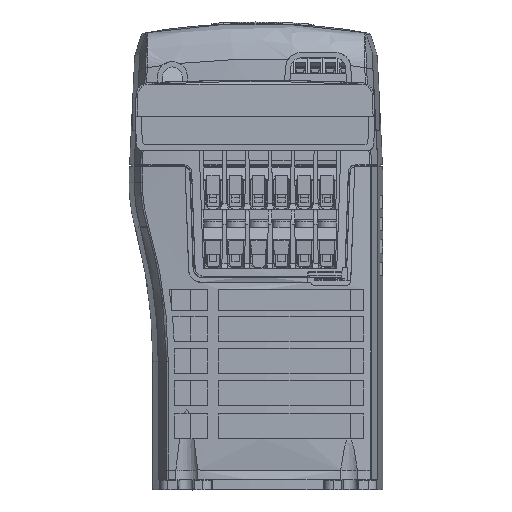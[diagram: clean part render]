
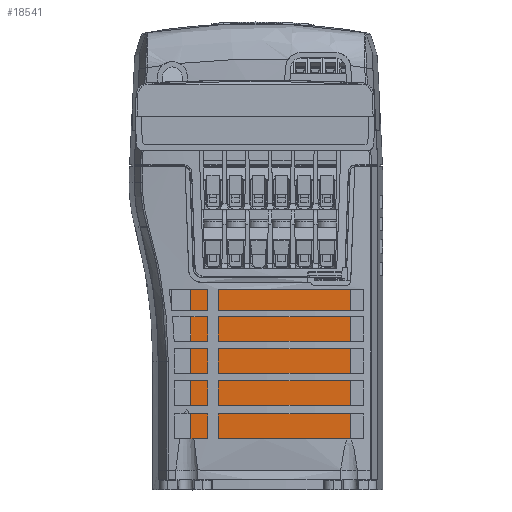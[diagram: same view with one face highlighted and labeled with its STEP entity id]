
A CAD part, front view. The second image highlights one B-rep face of the part: STEP entity #18541.
In plain terms, the highlighted planar face has unit normal (0, -1, -0.009).
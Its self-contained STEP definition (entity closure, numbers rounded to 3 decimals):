
#11248=DIRECTION('',(1.,0.,0.));
#11249=VECTOR('',#11248,1.7);
#11250=CARTESIAN_POINT('',(22.93,-113.056,17.2));
#11251=LINE('',#11250,#11249);
#11285=DIRECTION('',(-1.,0.,0.));
#11286=VECTOR('',#11285,3.87);
#11287=CARTESIAN_POINT('',(28.5,-112.935,3.4));
#11288=LINE('',#11287,#11286);
#11289=DIRECTION('',(0.,-0.009,1.));
#11290=VECTOR('',#11289,13.801);
#11291=CARTESIAN_POINT('',(24.63,-112.935,3.4));
#11292=LINE('',#11291,#11290);
#11293=DIRECTION('',(0.,0.009,-1.));
#11294=VECTOR('',#11293,13.801);
#11295=CARTESIAN_POINT('',(22.93,-113.056,17.2));
#11296=LINE('',#11295,#11294);
#11297=DIRECTION('',(-1.,0.,0.));
#11298=VECTOR('',#11297,47.72);
#11299=CARTESIAN_POINT('',(22.93,-112.935,3.4));
#11300=LINE('',#11299,#11298);
#11301=DIRECTION('',(-0.003,-0.009,1.));
#11302=VECTOR('',#11301,66.843);
#11303=CARTESIAN_POINT('',(-24.79,-112.935,3.4));
#11304=LINE('',#11303,#11302);
#11305=DIRECTION('',(1.,0.,0.));
#11306=VECTOR('',#11305,53.523);
#11307=CARTESIAN_POINT('',(-25.023,-113.52,
70.24));
#11308=LINE('',#11307,#11306);
#11309=DIRECTION('',(0.,0.009,-1.));
#11310=VECTOR('',#11309,66.842);
#11311=CARTESIAN_POINT('',(28.5,-113.52,70.24));
#11312=LINE('',#11311,#11310);
#15208=CARTESIAN_POINT('',(22.93,-112.935,3.4));
#15209=VERTEX_POINT('',#15208);
#15210=CARTESIAN_POINT('',(28.5,-112.935,3.4));
#15212=VERTEX_POINT('',#15210);
#15214=CARTESIAN_POINT('',(24.63,-112.935,3.4));
#15215=VERTEX_POINT('',#15214);
#15217=CARTESIAN_POINT('',(-25.023,-113.52,
70.24));
#15219=VERTEX_POINT('',#15217);
#15222=CARTESIAN_POINT('',(24.63,-113.056,17.2));
#15223=VERTEX_POINT('',#15222);
#15224=CARTESIAN_POINT('',(22.93,-113.056,17.2));
#15225=VERTEX_POINT('',#15224);
#15226=CARTESIAN_POINT('',(28.5,-113.52,70.24));
#15227=VERTEX_POINT('',#15226);
#15922=CARTESIAN_POINT('',(-24.79,-112.935,3.4));
#15923=VERTEX_POINT('',#15922);
#18519=CARTESIAN_POINT('',(1.738,-113.227,
36.82));
#18520=DIRECTION('',(0.,1.,0.009));
#18521=DIRECTION('',(0.,-0.009,1.));
#18522=AXIS2_PLACEMENT_3D('',#18519,#18520,#18521);
#18523=PLANE('',#18522);
#18525=ORIENTED_EDGE('',*,*,#18524,.T.);
#18527=ORIENTED_EDGE('',*,*,#18526,.T.);
#18528=ORIENTED_EDGE('',*,*,#18500,.F.);
#18530=ORIENTED_EDGE('',*,*,#18529,.T.);
#18532=ORIENTED_EDGE('',*,*,#18531,.T.);
#18534=ORIENTED_EDGE('',*,*,#18533,.T.);
#18536=ORIENTED_EDGE('',*,*,#18535,.T.);
#18538=ORIENTED_EDGE('',*,*,#18537,.T.);
#18539=EDGE_LOOP('',(#18525,#18527,#18528,#18530,#18532,#18534,#18536,#18538));
#18540=FACE_OUTER_BOUND('',#18539,.F.);
#18541=ADVANCED_FACE('',(#18540),#18523,.F.);
#18500=EDGE_CURVE('',#15225,#15223,#11251,.T.);
#18524=EDGE_CURVE('',#15212,#15215,#11288,.T.);
#18526=EDGE_CURVE('',#15215,#15223,#11292,.T.);
#18529=EDGE_CURVE('',#15225,#15209,#11296,.T.);
#18531=EDGE_CURVE('',#15209,#15923,#11300,.T.);
#18533=EDGE_CURVE('',#15923,#15219,#11304,.T.);
#18535=EDGE_CURVE('',#15219,#15227,#11308,.T.);
#18537=EDGE_CURVE('',#15227,#15212,#11312,.T.);
